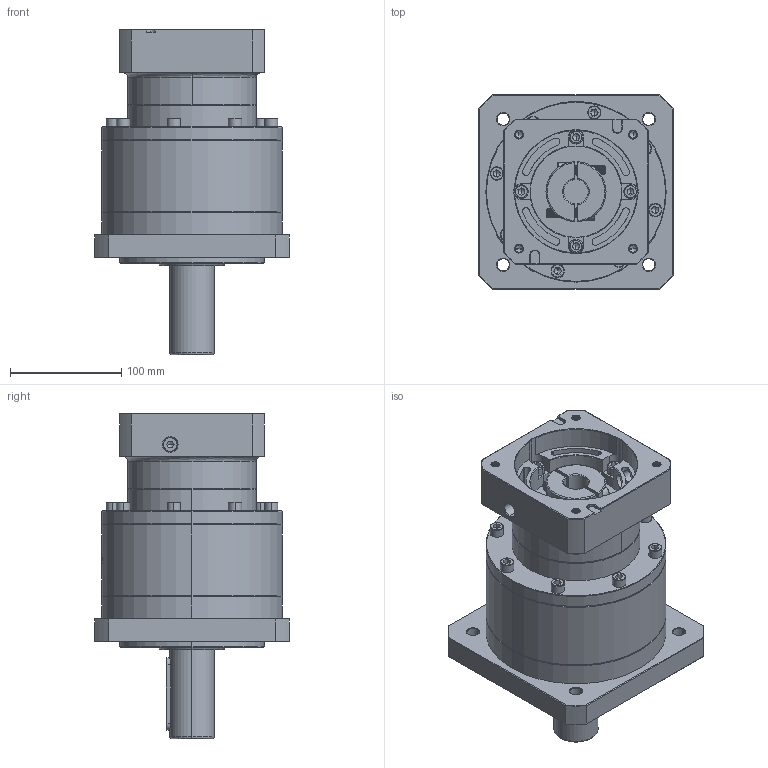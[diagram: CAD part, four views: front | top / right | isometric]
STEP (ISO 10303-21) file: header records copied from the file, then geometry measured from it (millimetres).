
FILE_DESCRIPTION (( 'STEP AP214' ), '1' );
FILE_NAME ('ZF160A-D40-L2-P2-22-110-145-M8.step', '2023-09-03T07:54:12', ( '' ), ( '' ), 'SwSTEP 2.0', 'SolidWorks 2016', '' );
FILE_SCHEMA (( 'AUTOMOTIVE_DESIGN' ));
Length unit declared in the file: millimetre
Products named in the file (1): ZF160A-D40-L2-P2-22-110-145-M8
Bounding box: 175 x 175 x 292.2 mm (x, y, z)
Volume: 3585613.9 mm3; surface area: 282217.4 mm2
Topology: 6 solids, 6 shells, 2483 faces, 6586 edges, 4224 vertices
Faces by surface type: plane 1145, cylinder 514, bspline 407, cone 361, torus 56
Entity records: 135279 total; most frequent: CARTESIAN_POINT 51566, ORIENTED_EDGE 13064, DIRECTION 9978, EDGE_CURVE 6532, VERTEX_POINT 4224, VECTOR 3456, LINE 3456, AXIS2_PLACEMENT_3D 3261
